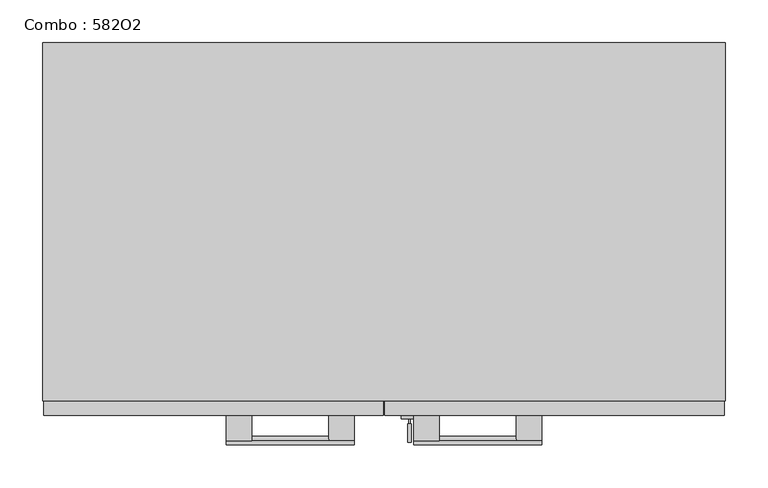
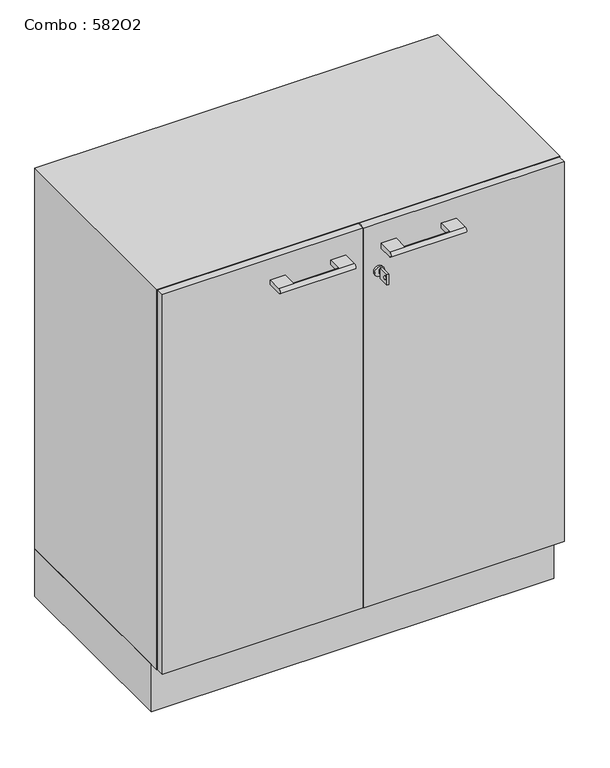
"""IFC4 building model written with IfcOpenShell, lengths in millimetres: furniture geometry, Combo : 582O2."""

from ifc_helpers import new_model, si_unit, point, frame, frame_2d, origin, origin_with_axes, place, context, project, spatial, polyline, circle_curve, trimmed, segment, composite_curve, outline, extrude, source, transform, mapped, element, save
from ifc_brep_helpers import plane_surface, cylinder_surface, advanced_brep


def combo_582o2_99a22e70(model_context):
    return source(origin(), model_context, "Body", "SolidModel", [
        extrude(outline(polyline([(-400.0, -400.0), (-400.0, 0.0), (400.0, 0.0), (400.0, -400.0), (-400.0, -400.0)])), origin_with_axes(), (0.0, 0.0, 1.0), 100.0),
        extrude(outline(composite_curve([segment(trimmed(circle_curve(frame_2d((800.0, 30.0)), 10.0), [point((800.0, 20.0))], [point((800.0, 40.0))], False, "CARTESIAN"), True, "CONTINUOUS"), segment(trimmed(circle_curve(frame_2d((800.0, 30.0)), 10.0), [point((800.0, 40.0))], [point((800.0, 20.0))], False, "CARTESIAN"), True, "CONTINUOUS")], self_intersect=False)), frame((0.0, -441.0, 0.0), z_axis=(0.0, 1.0, 0.0), x_axis=(0.0, 0.0, 1.0)), (0.0, 0.0, 1.0), 4.0),
        extrude(outline(polyline([(-469.0, 789.014113), (-469.0, 811.0), (-447.0, 811.0), (-447.0, 789.014113), (-469.0, 789.014113)]), holes=[composite_curve([segment(trimmed(circle_curve(frame_2d((-462.75, 800.0070565)), 3.2230706), [point((-462.75, 803.2301271))], [point((-462.75, 796.7839859))], True, "CARTESIAN"), True, "CONTINUOUS"), segment(trimmed(circle_curve(frame_2d((-462.75, 800.0070565)), 3.2230706), [point((-462.75, 796.7839859))], [point((-462.75, 803.2301271))], True, "CARTESIAN"), True, "CONTINUOUS")], self_intersect=False)]), frame((28.0, 0.0, 0.0), z_axis=(1.0, 0.0, 0.0), x_axis=(0.0, 1.0, 0.0)), (0.0, 0.0, 1.0), 4.0416064),
        extrude(outline(polyline([(31.0416064, -447.0), (29.0, -447.0), (29.0, -441.0), (31.0416064, -441.0), (31.0416064, -447.0)])), frame((0.0, 0.0, 796.014113), z_axis=(0.0, 0.0, 1.0), x_axis=(1.0, 0.0, 0.0)), (0.0, 0.0, 1.0), 7.985887),
        advanced_brep(
        [(-185.0, -467.0, 855.0), (-185.0, -437.0, 855.0), (-185.0, -437.0, 845.0), (-185.0, -467.0, 845.0), (-155.0, -467.0, 845.0), (-155.0, -437.0, 845.0), (-155.0, -437.0, 855.0), (-155.0, -467.0, 855.0), (-35.0, -467.0, 855.0), (-35.0, -467.0, 845.0), (-35.0, -437.0, 845.0), (-35.0, -437.0, 855.0), (-65.0, -467.0, 855.0), (-65.0, -467.0, 845.0), (-65.0, -437.0, 855.0), (-65.0, -437.0, 845.0)],
        [
            (0, 1),
            (1, 2),
            (2, 3),
            (3, 0, circle_curve(frame((-185.0, -467.0, 850.0), z_axis=(-1.0, 0.0, 0.0), x_axis=(0.0, 0.0, -1.0)), 5.0)),
            (4, 5),
            (5, 6),
            (6, 7),
            (7, 4, circle_curve(frame((-155.0, -467.0, 850.0), z_axis=(-1.0, 0.0, 0.0), x_axis=(0.0, 0.0, -1.0)), 5.0)),
            (2, 5),
            (4, 3),
            (1, 6),
            (0, 7),
            (8, 9, circle_curve(frame((-35.0, -467.0, 850.0), z_axis=(1.0, 0.0, 0.0), x_axis=(0.0, 0.0, -1.0)), 5.0)),
            (9, 10),
            (10, 11),
            (11, 8),
            (8, 12),
            (12, 7),
            (4, 13),
            (13, 9),
            (12, 13, circle_curve(frame((-65.0, -467.0, 850.0), z_axis=(-1.0, 0.0, 0.0), x_axis=(0.0, 0.0, -1.0)), 5.0)),
            (12, 14),
            (14, 15),
            (15, 13),
            (15, 10),
            (14, 11),
        ],
        [
            plane_surface(frame((-185.0, -467.0, 856.0), z_axis=(-1.0, 0.0, 0.0), x_axis=(0.0, 0.0, 1.0))),
            plane_surface(frame((-155.0, -467.0, 856.0), z_axis=(1.0, 0.0, 0.0), x_axis=(0.0, 0.0, -1.0))),
            plane_surface(frame((-185.0, -437.0, 845.0), z_axis=(0.0, 0.0, -1.0), x_axis=(1.0, 0.0, 0.0))),
            plane_surface(frame((-185.0, -437.0, 855.0), z_axis=(0.0, 1.0, 0.0), x_axis=(1.0, 0.0, 0.0))),
            plane_surface(frame((-185.0, -467.0, 855.0), z_axis=(0.0, 0.0, 1.0), x_axis=(1.0, 0.0, 0.0))),
            plane_surface(frame((-35.0, -467.0, 845.0), z_axis=(1.0, 0.0, 0.0), x_axis=(0.0, 1.0, 0.0))),
            cylinder_surface(frame((-185.0, -467.0, 850.0), z_axis=(1.0, 0.0, 0.0), x_axis=(0.0, 0.0, -1.0)), 5.0),
            plane_surface(frame((-65.0, -555.7415577, 845.0), z_axis=(-1.0, 0.0, 0.0), x_axis=(0.0, -1.0, 0.0))),
            plane_surface(frame((-35.0, -467.0, 845.0), z_axis=(0.0, 0.0, -1.0), x_axis=(-1.0, 0.0, 0.0))),
            plane_surface(frame((-35.0, -437.0, 845.0), z_axis=(0.0, 1.0, 0.0), x_axis=(-1.0, 0.0, 0.0))),
            plane_surface(frame((-35.0, -437.0, 855.0), z_axis=(0.0, 0.0, 1.0), x_axis=(-1.0, 0.0, 0.0))),
        ],
        [
            (0, [[1, 2, 3, 4]]),
            (1, [[5, 6, 7, 8]]),
            (2, [[-3, 9, -5, 10]]),
            (3, [[-2, 11, -6, -9]]),
            (4, [[-1, 12, -7, -11]]),
            (5, [[13, 14, 15, 16]]),
            (6, [[-13, 17, 18, -12, -4, -10, 19, 20]]),
            (6, [[-8, -18, 21, -19]]),
            (7, [[22, 23, 24, -21]]),
            (8, [[-14, -20, -24, 25]]),
            (9, [[-15, -25, -23, 26]]),
            (10, [[-16, -26, -22, -17]]),
        ],
    ),
        advanced_brep(
        [(35.0, -467.0, 855.0), (35.0, -437.0, 855.0), (35.0, -437.0, 845.0), (35.0, -467.0, 845.0), (65.0, -467.0, 845.0), (65.0, -437.0, 845.0), (65.0, -437.0, 855.0), (65.0, -467.0, 855.0), (185.0, -467.0, 855.0), (185.0, -467.0, 845.0), (185.0, -437.0, 845.0), (185.0, -437.0, 855.0), (155.0, -467.0, 855.0), (155.0, -467.0, 845.0), (155.0, -437.0, 855.0), (155.0, -437.0, 845.0)],
        [
            (0, 1),
            (1, 2),
            (2, 3),
            (3, 0, circle_curve(frame((35.0, -467.0, 850.0), z_axis=(-1.0, 0.0, 0.0), x_axis=(0.0, 0.0, -1.0)), 5.0)),
            (4, 5),
            (5, 6),
            (6, 7),
            (7, 4, circle_curve(frame((65.0, -467.0, 850.0), z_axis=(-1.0, 0.0, 0.0), x_axis=(0.0, 0.0, -1.0)), 5.0)),
            (2, 5),
            (4, 3),
            (1, 6),
            (0, 7),
            (8, 9, circle_curve(frame((185.0, -467.0, 850.0), z_axis=(1.0, 0.0, 0.0), x_axis=(0.0, 0.0, -1.0)), 5.0)),
            (9, 10),
            (10, 11),
            (11, 8),
            (8, 12),
            (12, 7),
            (4, 13),
            (13, 9),
            (12, 13, circle_curve(frame((155.0, -467.0, 850.0), z_axis=(-1.0, 0.0, 0.0), x_axis=(0.0, 0.0, -1.0)), 5.0)),
            (12, 14),
            (14, 15),
            (15, 13),
            (15, 10),
            (14, 11),
        ],
        [
            plane_surface(frame((35.0, -467.0, 856.0), z_axis=(-1.0, 0.0, 0.0), x_axis=(0.0, 0.0, 1.0))),
            plane_surface(frame((65.0, -467.0, 856.0), z_axis=(1.0, 0.0, 0.0), x_axis=(0.0, 0.0, -1.0))),
            plane_surface(frame((35.0, -437.0, 845.0), z_axis=(0.0, 0.0, -1.0), x_axis=(1.0, 0.0, 0.0))),
            plane_surface(frame((35.0, -437.0, 855.0), z_axis=(0.0, 1.0, 0.0), x_axis=(1.0, 0.0, 0.0))),
            plane_surface(frame((35.0, -467.0, 855.0), z_axis=(0.0, 0.0, 1.0), x_axis=(1.0, 0.0, 0.0))),
            plane_surface(frame((185.0, -467.0, 845.0), z_axis=(1.0, 0.0, 0.0), x_axis=(0.0, 1.0, 0.0))),
            cylinder_surface(frame((35.0, -467.0, 850.0), z_axis=(1.0, 0.0, 0.0), x_axis=(0.0, 0.0, -1.0)), 5.0),
            plane_surface(frame((155.0, -555.7415577, 845.0), z_axis=(-1.0, 0.0, 0.0), x_axis=(0.0, -1.0, 0.0))),
            plane_surface(frame((185.0, -467.0, 845.0), z_axis=(0.0, 0.0, -1.0), x_axis=(-1.0, 0.0, 0.0))),
            plane_surface(frame((185.0, -437.0, 845.0), z_axis=(0.0, 1.0, 0.0), x_axis=(-1.0, 0.0, 0.0))),
            plane_surface(frame((185.0, -437.0, 855.0), z_axis=(0.0, 0.0, 1.0), x_axis=(-1.0, 0.0, 0.0))),
        ],
        [
            (0, [[1, 2, 3, 4]]),
            (1, [[5, 6, 7, 8]]),
            (2, [[-3, 9, -5, 10]]),
            (3, [[-2, 11, -6, -9]]),
            (4, [[-1, 12, -7, -11]]),
            (5, [[13, 14, 15, 16]]),
            (6, [[-13, 17, 18, -12, -4, -10, 19, 20]]),
            (6, [[-8, -18, 21, -19]]),
            (7, [[22, 23, 24, -21]]),
            (8, [[-14, -20, -24, 25]]),
            (9, [[-15, -25, -23, 26]]),
            (10, [[-16, -26, -22, -17]]),
        ],
    ),
        extrude(outline(polyline([(-1.0, -437.0), (-399.0, -437.0), (-399.0, -421.0), (-1.0, -421.0), (-1.0, -437.0)])), frame((0.0, 0.0, 101.0), z_axis=(0.0, 0.0, 1.0), x_axis=(1.0, 0.0, 0.0)), (0.0, 0.0, 1.0), 798.0),
        extrude(outline(polyline([(399.0, -437.0), (1.0, -437.0), (1.0, -421.0), (399.0, -421.0), (399.0, -437.0)])), frame((0.0, 0.0, 101.0), z_axis=(0.0, 0.0, 1.0), x_axis=(1.0, 0.0, 0.0)), (0.0, 0.0, 1.0), 798.0),
        extrude(outline(polyline([(400.0, 0.0), (400.0, -420.0), (-400.0, -420.0), (-400.0, 0.0), (400.0, 0.0)])), frame((0.0, 0.0, 100.0), z_axis=(0.0, 0.0, 1.0), x_axis=(1.0, 0.0, 0.0)), (0.0, 0.0, 1.0), 800.0),
    ])


if __name__ == "__main__":
    model = new_model("IFC4")
    model_context = context("Model", 3, world=origin())
    ifc_project = project(units=[si_unit("LENGTHUNIT", "METRE", prefix="MILLI")], contexts=[model_context])
    site = spatial("IfcSite", under=ifc_project)
    building = spatial("IfcBuilding", under=site)
    placement = place(None, origin())
    combo_582o2_shape = combo_582o2_99a22e70(model_context)
    element("IfcFurniture", 1, ObjectType="Combo : 582O2", at=placement, inside=building, context=model_context, shape_type="MappedRepresentation", body=[
        mapped(combo_582o2_shape, transform((0.0, 0.0, 0.0), x_axis=(1.0, 0.0, 0.0), y_axis=(0.0, 1.0, 0.0), z_axis=(0.0, 0.0, 1.0))),
    ])
    save(model, "model.ifc")
